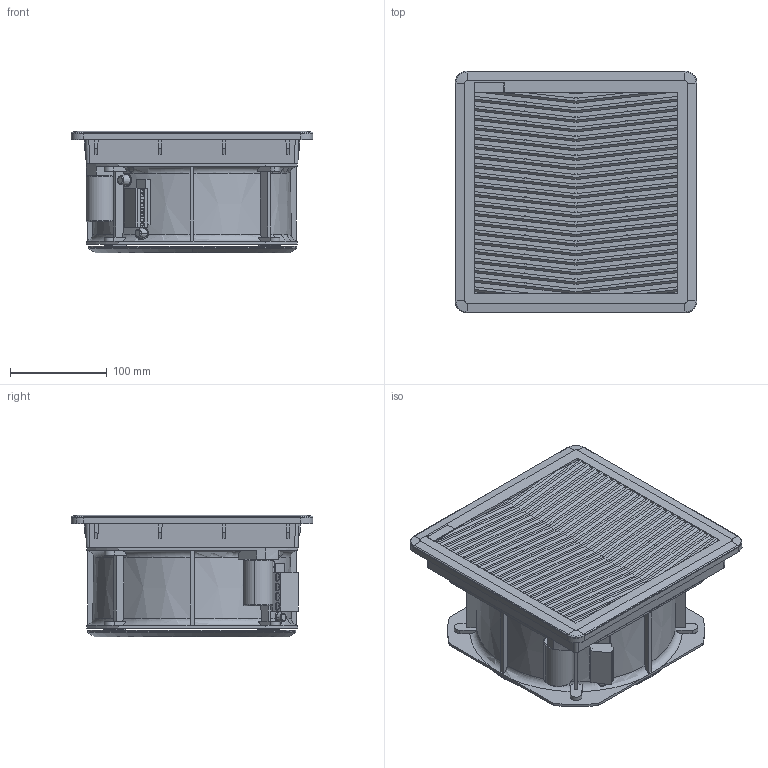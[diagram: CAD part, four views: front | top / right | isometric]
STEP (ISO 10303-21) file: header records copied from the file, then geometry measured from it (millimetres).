
FILE_DESCRIPTION (( 'STEP AP214' ), '1' );
FILE_NAME ('FF15GAxxxyJR.STEP', '2023-10-02T09:11:38', ( '' ), ( '' ), 'SwSTEP 2.0', 'SolidWorks 2022', '' );
FILE_SCHEMA (( 'AUTOMOTIVE_DESIGN' ));
Length unit declared in the file: millimetre
Products named in the file (10): DT-00158DSI_Sede etichetta semplificato; 040014_LK_980-01-4_Semplificata; DT-00159DSI_Base semplificata; DT-02093DSI_C22s semplificato con cond.; DT-02092DSI_b_semplificato; DT-03230DSI_Assieme semplificato; GMP200NK_semplificata; DT-04082DSI_mostrina semplificata; DT-02091DSI_semplificato; FF15GAxxxyJR
Assembly tree (9 placements, depth 3):
  FF15GAxxxyJR
    DT-03230DSI_Assieme semplificato
      DT-00159DSI_Base semplificata
      DT-00158DSI_Sede etichetta semplificato
      DT-04082DSI_mostrina semplificata
    DT-02093DSI_C22s semplificato con cond.
      DT-02091DSI_semplificato
      DT-02092DSI_b_semplificato
      040014_LK_980-01-4_Semplificata
    GMP200NK_semplificata
Bounding box: 250.12 x 250.08 x 126.07 mm (x, y, z)
Volume: 4710875.2 mm3; surface area: 578210.2 mm2
Topology: 6 solids, 7 shells, 900 faces, 2541 edges, 1670 vertices
Faces by surface type: plane 713, bspline 78, cylinder 45, torus 39, cone 25
Entity records: 38414 total; most frequent: CARTESIAN_POINT 16529, ORIENTED_EDGE 5080, DIRECTION 3337, EDGE_CURVE 2540, VERTEX_POINT 1670, VECTOR 1265, LINE 1265, AXIS2_PLACEMENT_3D 1036
